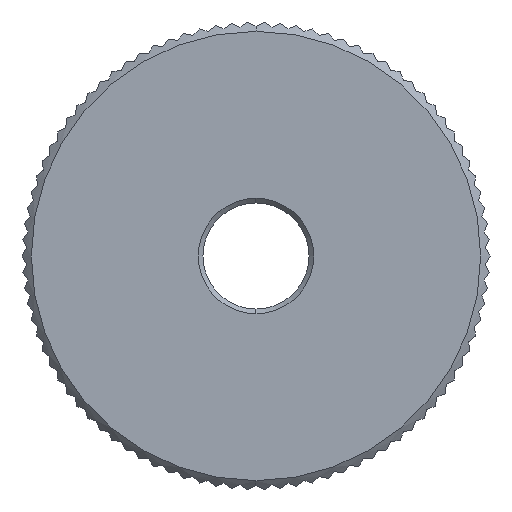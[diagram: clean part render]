
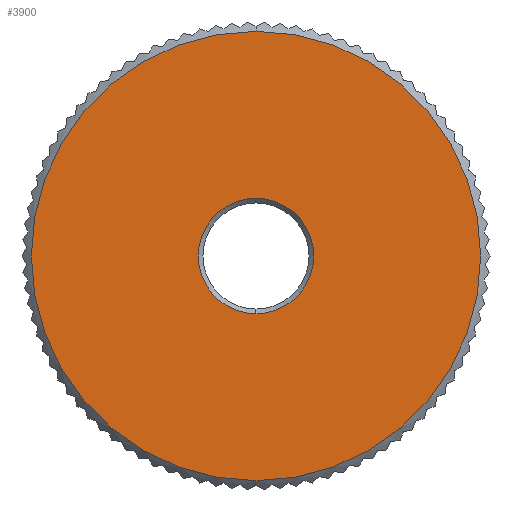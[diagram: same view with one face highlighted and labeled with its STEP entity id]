
A CAD part, left-side view. The second image highlights one B-rep face of the part: STEP entity #3900.
In plain terms, the highlighted planar face has unit normal (-1, 0, 0).
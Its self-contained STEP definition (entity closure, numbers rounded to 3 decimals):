
#854 = VERTEX_POINT ( 'NONE', #2331 ) ;
#856 = VERTEX_POINT ( 'NONE', #2330 ) ;
#861 = EDGE_CURVE ( 'NONE', #856, #854, #2320, .T. ) ;
#2316 = DIRECTION ( 'NONE',  ( 0., 0., -1. ) ) ;
#2317 = DIRECTION ( 'NONE',  ( 1., 0., 0. ) ) ;
#2318 = CARTESIAN_POINT ( 'NONE',  ( -6., 0., 0. ) ) ;
#2319 = AXIS2_PLACEMENT_3D ( 'NONE', #2318, #2317, #2316 ) ;
#2320 = CIRCLE ( 'NONE', #2319, 3.7 ) ;
#2330 = CARTESIAN_POINT ( 'NONE',  ( -6., 0., 3.7 ) ) ;
#2331 = CARTESIAN_POINT ( 'NONE',  ( -6., 0., -3.7 ) ) ;
#3849 = EDGE_CURVE ( 'NONE', #6476, #6479, #5492, .T. ) ;
#3850 = ORIENTED_EDGE ( 'NONE', *, *, #6769, .T. ) ;
#3854 = ORIENTED_EDGE ( 'NONE', *, *, #3849, .T. ) ;
#3857 = EDGE_LOOP ( 'NONE', ( #3854, #3850 ) ) ;
#3864 = ORIENTED_EDGE ( 'NONE', *, *, #861, .T. ) ;
#3878 = EDGE_LOOP ( 'NONE', ( #3864, #3892 ) ) ;
#3892 = ORIENTED_EDGE ( 'NONE', *, *, #3893, .T. ) ;
#3893 = EDGE_CURVE ( 'NONE', #854, #856, #5553, .T. ) ;
#3900 = ADVANCED_FACE ( 'NONE', ( #5545, #5544 ), #5543, .F. ) ;
#5488 = DIRECTION ( 'NONE',  ( 0., 0., -1. ) ) ;
#5489 = DIRECTION ( 'NONE',  ( -1., 0., 0. ) ) ;
#5490 = CARTESIAN_POINT ( 'NONE',  ( -6., 0., 0. ) ) ;
#5491 = AXIS2_PLACEMENT_3D ( 'NONE', #5490, #5489, #5488 ) ;
#5492 = CIRCLE ( 'NONE', #5491, 14.4 ) ;
#5538 = DIRECTION ( 'NONE',  ( 0., 0., -1. ) ) ;
#5539 = DIRECTION ( 'NONE',  ( 1., 0., 0. ) ) ;
#5540 = CARTESIAN_POINT ( 'NONE',  ( -6., 0., 0. ) ) ;
#5542 = AXIS2_PLACEMENT_3D ( 'NONE', #5540, #5539, #5538 ) ;
#5543 = PLANE ( 'NONE',  #5542 ) ;
#5544 = FACE_OUTER_BOUND ( 'NONE', #3857, .T. ) ;
#5545 = FACE_BOUND ( 'NONE', #3878, .T. ) ;
#5550 = DIRECTION ( 'NONE',  ( 0., 0., -1. ) ) ;
#5551 = DIRECTION ( 'NONE',  ( 1., 0., 0. ) ) ;
#5552 = AXIS2_PLACEMENT_3D ( 'NONE', #5559, #5551, #5550 ) ;
#5553 = CIRCLE ( 'NONE', #5552, 3.7 ) ;
#5559 = CARTESIAN_POINT ( 'NONE',  ( -6., 0., 0. ) ) ;
#5776 = CARTESIAN_POINT ( 'NONE',  ( -6., 0., 14.4 ) ) ;
#5782 = CARTESIAN_POINT ( 'NONE',  ( -6., 0., -14.4 ) ) ;
#6300 = DIRECTION ( 'NONE',  ( 0., 0., -1. ) ) ;
#6301 = DIRECTION ( 'NONE',  ( -1., 0., 0. ) ) ;
#6302 = AXIS2_PLACEMENT_3D ( 'NONE', #6311, #6301, #6300 ) ;
#6303 = CIRCLE ( 'NONE', #6302, 14.4 ) ;
#6311 = CARTESIAN_POINT ( 'NONE',  ( -6., 0., 0. ) ) ;
#6476 = VERTEX_POINT ( 'NONE', #5782 ) ;
#6479 = VERTEX_POINT ( 'NONE', #5776 ) ;
#6769 = EDGE_CURVE ( 'NONE', #6479, #6476, #6303, .T. ) ;
